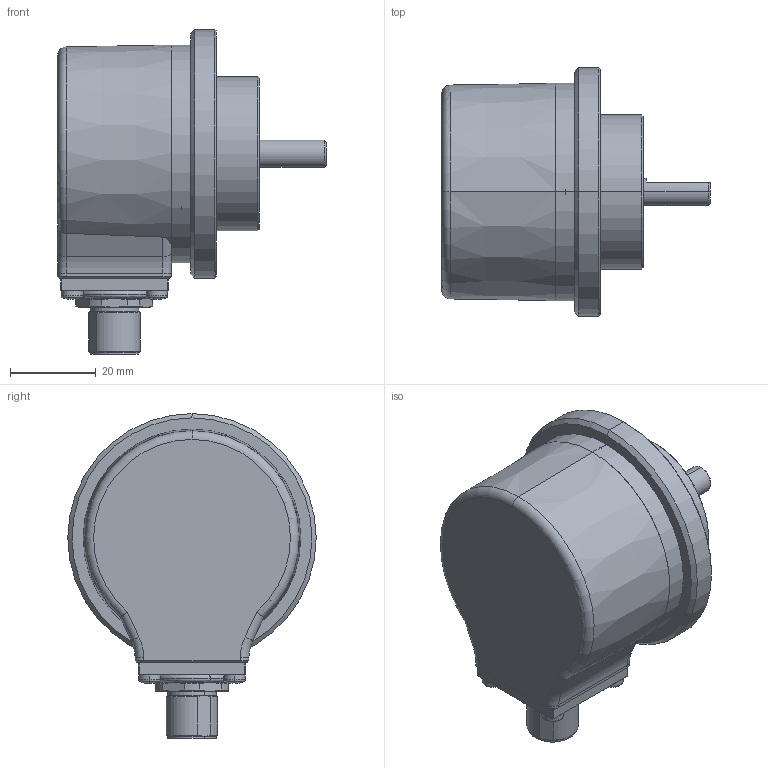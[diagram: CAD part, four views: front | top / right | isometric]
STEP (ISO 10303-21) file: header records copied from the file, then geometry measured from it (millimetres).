
FILE_DESCRIPTION (( 'STEP AP203' ), '1' );
FILE_NAME ('8.5000.827R.XXXX.STEP', '2017-04-05T07:27:25', ( '' ), ( '' ), 'SwSTEP 2.0', 'SolidWorks 2017', '' );
FILE_SCHEMA (( 'CONFIG_CONTROL_DESIGN' ));
Length unit declared in the file: millimetre
Products named in the file (1): 8.5000.827R.XXXX
Bounding box: 62.7 x 58 x 75.8 mm (x, y, z)
Surface area: 34168.6 mm2 (no closed solid volume)
Topology: 0 solids, 15 shells, 605 faces, 1438 edges, 853 vertices
Faces by surface type: plane 202, cylinder 172, cone 110, bspline 62, torus 47, sphere 12
Entity records: 19695 total; most frequent: CARTESIAN_POINT 5980, DIRECTION 2979, ORIENTED_EDGE 2748, EDGE_CURVE 1382, AXIS2_PLACEMENT_3D 1224, VERTEX_POINT 853, EDGE_LOOP 695, CIRCLE 680
